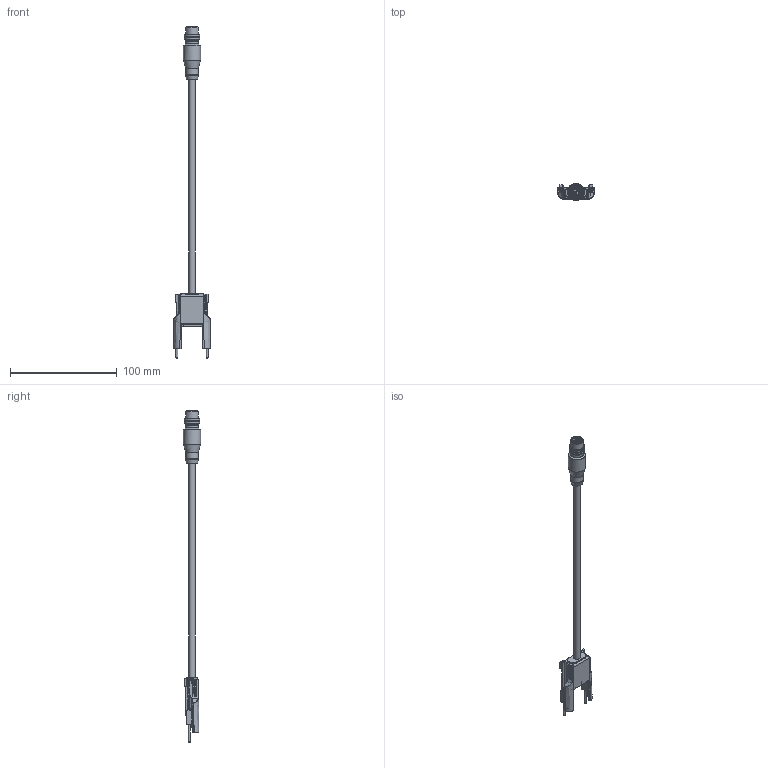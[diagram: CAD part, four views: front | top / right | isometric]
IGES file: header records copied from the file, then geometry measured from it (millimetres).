
Global section: file name: C:\Users\lrossetti\OneDrive - Datalogic S.p.a\Desktop\SG4E plugs - DSD igs\DSD-0342.igs; native system: NX V12.0; preprocessor: SIEMENS PLM Software NX 12.0; date: 20200605.160710; units: millimetre
Bounding box: 35 x 16 x 310.7 mm (x, y, z)
Surface area: 15907.3 mm2 (no closed solid volume)
Topology: 0 solids, 0 shells, 1097 faces, 6413 edges, 6102 vertices
Faces by surface type: bspline 1097
